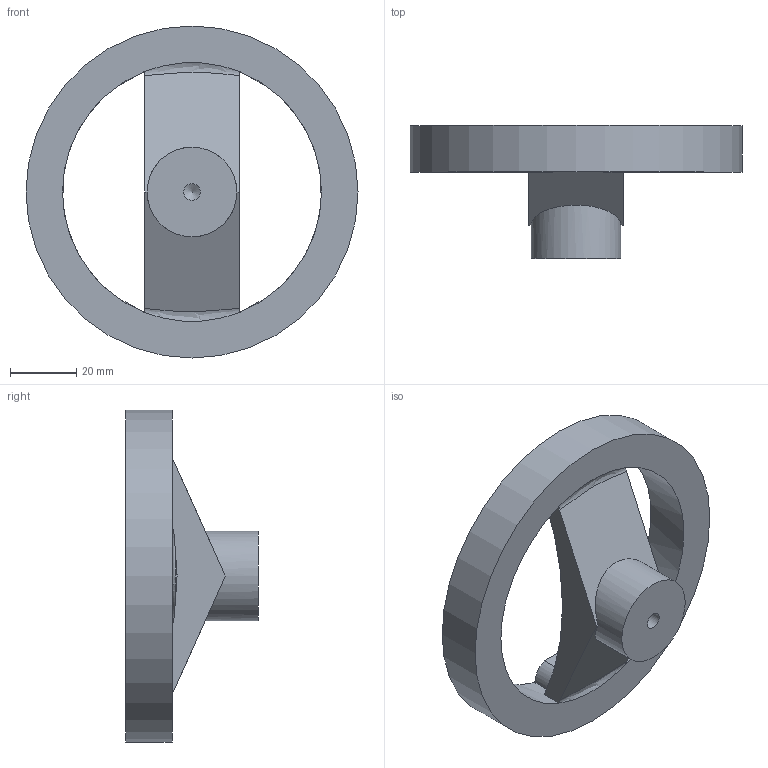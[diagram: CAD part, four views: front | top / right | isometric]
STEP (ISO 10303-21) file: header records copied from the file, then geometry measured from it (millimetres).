
FILE_DESCRIPTION(/* description */ (''),/* implementation_level */ '2;1');
FILE_NAME(/* name */ '\\NAS\db20\ASH_M\DR_ASH_M.stp',/* time_stamp */ '2017-08-08T09:03:17+09:00',/* author */ ('user'),/* organization */ (''),/* preprocessor_version */ 'ST-DEVELOPER v15.6',/* originating_system */ 'Autodesk Inventor 2015',/* authorisation */ '');
FILE_SCHEMA (('AUTOMOTIVE_DESIGN { 1 0 10303 214 3 1 1 }'));
Length unit declared in the file: millimetre
Products named in the file (1): DR_ASH_M
Bounding box: 100 x 40 x 100 mm (x, y, z)
Volume: 70756 mm3; surface area: 21012.9 mm2
Topology: 1 solids, 1 shells, 24 faces, 63 edges, 40 vertices
Faces by surface type: cylinder 10, plane 9, cone 2, bspline 2, torus 1
Full cylindrical faces by diameter (mm): 4.917 x1, 5 x1, 27 x1, 100 x1
Entity records: 877 total; most frequent: CARTESIAN_POINT 320, ORIENTED_EDGE 106, DIRECTION 104, EDGE_CURVE 53, AXIS2_PLACEMENT_3D 44, VERTEX_POINT 37, EDGE_LOOP 34, FACE_OUTER_BOUND 24
